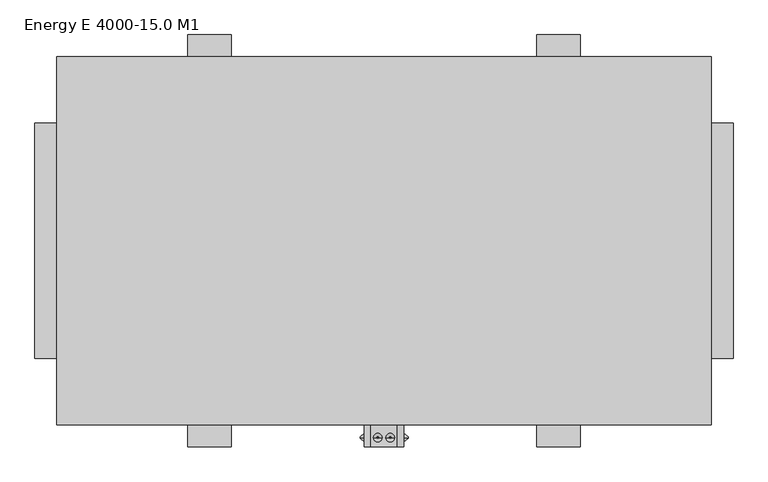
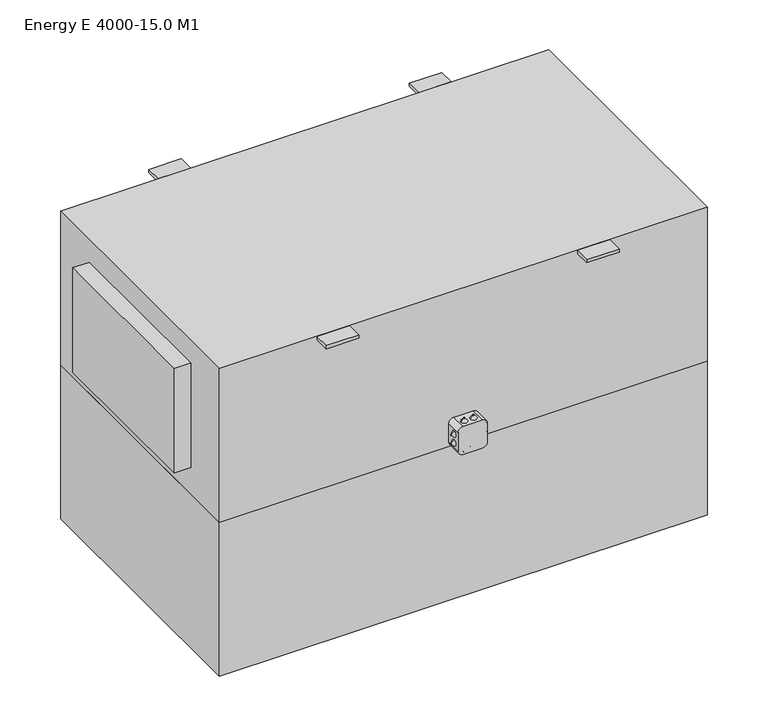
"""IFC4 building model written with IfcOpenShell, lengths in millimetres: proxy geometry, ADSK_КПВУ_ENERGY E_прямоугольная : Energy E 4000-15.0 M1."""

from ifc_helpers import new_model, si_unit, point, frame, frame_2d, origin, place, context, project, spatial, polyline, circle_curve, trimmed, segment, composite_curve, outline, extrude, faceted_brep, source, transform, mapped, element, save
from ifc_brep_helpers import plane_surface, revolved_surface, advanced_brep


def energy_e_4000_15_0_m1_56c008f9(model_context):
    return source(origin(), model_context, "Body", "SolidModel", [
        advanced_brep(
        [(211.0, -451.4311792, -221.7092609), (211.0, -451.4311792, -217.7092609), (221.0, -451.4311792, -229.7092609), (221.0, -451.4311792, -209.7092609)],
        [
            (0, 1, circle_curve(frame((211.0, -451.4311792, -219.7092609), z_axis=(-1.0, 0.0, 0.0), x_axis=(0.0, 0.0, -1.0)), 2.0)),
            (1, 0, circle_curve(frame((211.0, -451.4311792, -219.7092609), z_axis=(-1.0, 0.0, 0.0), x_axis=(0.0, 0.0, 1.0)), 2.0)),
            (2, 3, circle_curve(frame((221.0, -451.4311792, -219.7092609), z_axis=(1.0, 0.0, 0.0), x_axis=(0.0, 0.0, 1.0)), 10.0)),
            (3, 2, circle_curve(frame((221.0, -451.4311792, -219.7092609), z_axis=(1.0, 0.0, 0.0), x_axis=(0.0, 0.0, -1.0)), 10.0)),
            (2, 0),
            (1, 3),
        ],
        [
            plane_surface(frame((211.0, -451.4311792, -219.7092609), z_axis=(-1.0, 0.0, 0.0), x_axis=(0.0, -1.0, 0.0))),
            plane_surface(frame((221.0, -451.4311792, -219.7092609), z_axis=(1.0, 0.0, 0.0), x_axis=(0.0, -1.0, 0.0))),
            revolved_surface(polyline([(211.0, -451.4311792, -217.7092609), (221.0, -451.4311792, -209.7092609)]), (208.5, -451.4311792, -219.7092609), (1.0, 0.0, 0.0)),
            revolved_surface(polyline([(211.0, -451.4311792, -221.7092609), (221.0, -451.4311792, -229.7092609)]), (208.5, -451.4311792, -219.7092609), (1.0, 0.0, 0.0)),
        ],
        [
            (0, [[1, 2]]),
            (1, [[3, 4]]),
            (2, [[-3, 5, -2, 6]]),
            (3, [[-4, -6, -1, -5]]),
        ],
    ),
        advanced_brep(
        [(211.0, -451.4311792, -189.0531164), (211.0, -451.4311792, -193.0531164), (221.0, -451.4311792, -181.0531164), (221.0, -451.4311792, -201.0531164)],
        [
            (0, 1, circle_curve(frame((211.0, -451.4311792, -191.0531164), z_axis=(-1.0, 0.0, 0.0), x_axis=(0.0, 0.0, 1.0)), 2.0)),
            (1, 0, circle_curve(frame((211.0, -451.4311792, -191.0531164), z_axis=(-1.0, 0.0, 0.0), x_axis=(0.0, 0.0, -1.0)), 2.0)),
            (2, 3, circle_curve(frame((221.0, -451.4311792, -191.0531164), z_axis=(1.0, 0.0, 0.0), x_axis=(0.0, 0.0, -1.0)), 10.0)),
            (3, 2, circle_curve(frame((221.0, -451.4311792, -191.0531164), z_axis=(1.0, 0.0, 0.0), x_axis=(0.0, 0.0, 1.0)), 10.0)),
            (3, 1),
            (0, 2),
        ],
        [
            plane_surface(frame((211.0, -451.4311792, -191.0531164), z_axis=(-1.0, 0.0, 0.0), x_axis=(0.0, 1.0, 0.0))),
            plane_surface(frame((221.0, -451.4311792, -191.0531164), z_axis=(1.0, 0.0, 0.0), x_axis=(0.0, 1.0, 0.0))),
            revolved_surface(polyline([(211.0, -451.4311792, -189.0531164), (221.0, -451.4311792, -181.0531164)]), (208.5, -451.4311792, -191.0531164), (1.0, 0.0, 0.0)),
            revolved_surface(polyline([(211.0, -451.4311792, -193.0531164), (221.0, -451.4311792, -201.0531164)]), (208.5, -451.4311792, -191.0531164), (1.0, 0.0, 0.0)),
        ],
        [
            (0, [[1, 2]]),
            (1, [[3, 4]]),
            (2, [[-4, 5, -1, 6]]),
            (3, [[-3, -6, -2, -5]]),
        ],
    ),
        advanced_brep(
        [(321.0, -451.4311792, -221.7092609), (321.0, -451.4311792, -217.7092609), (311.0, -451.4311792, -229.7092609), (311.0, -451.4311792, -209.7092609)],
        [
            (0, 1, circle_curve(frame((321.0, -451.4311792, -219.7092609), z_axis=(1.0, 0.0, 0.0), x_axis=(0.0, 0.0, -1.0)), 2.0)),
            (1, 0, circle_curve(frame((321.0, -451.4311792, -219.7092609), z_axis=(1.0, 0.0, 0.0), x_axis=(0.0, 0.0, 1.0)), 2.0)),
            (2, 3, circle_curve(frame((311.0, -451.4311792, -219.7092609), z_axis=(-1.0, 0.0, 0.0), x_axis=(0.0, 0.0, 1.0)), 10.0)),
            (3, 2, circle_curve(frame((311.0, -451.4311792, -219.7092609), z_axis=(-1.0, 0.0, 0.0), x_axis=(0.0, 0.0, -1.0)), 10.0)),
            (3, 1),
            (0, 2),
        ],
        [
            plane_surface(frame((321.0, -451.4311792, -219.7092609), z_axis=(1.0, 0.0, 0.0), x_axis=(0.0, 1.0, 0.0))),
            plane_surface(frame((311.0, -451.4311792, -219.7092609), z_axis=(-1.0, 0.0, 0.0), x_axis=(0.0, 1.0, 0.0))),
            revolved_surface(polyline([(321.0, -451.4311792, -221.7092609), (311.0, -451.4311792, -229.7092609)]), (323.5, -451.4311792, -219.7092609), (-1.0, 0.0, 0.0)),
            revolved_surface(polyline([(321.0, -451.4311792, -217.7092609), (311.0, -451.4311792, -209.7092609)]), (323.5, -451.4311792, -219.7092609), (-1.0, 0.0, 0.0)),
        ],
        [
            (0, [[1, 2]]),
            (1, [[3, 4]]),
            (2, [[-4, 5, -1, 6]]),
            (3, [[-3, -6, -2, -5]]),
        ],
    ),
        advanced_brep(
        [(321.0, -451.4311792, -189.0531164), (321.0, -451.4311792, -193.0531164), (311.0, -451.4311792, -181.0531164), (311.0, -451.4311792, -201.0531164)],
        [
            (0, 1, circle_curve(frame((321.0, -451.4311792, -191.0531164), z_axis=(1.0, 0.0, 0.0), x_axis=(0.0, 0.0, 1.0)), 2.0)),
            (1, 0, circle_curve(frame((321.0, -451.4311792, -191.0531164), z_axis=(1.0, 0.0, 0.0), x_axis=(0.0, 0.0, -1.0)), 2.0)),
            (2, 3, circle_curve(frame((311.0, -451.4311792, -191.0531164), z_axis=(-1.0, 0.0, 0.0), x_axis=(0.0, 0.0, -1.0)), 10.0)),
            (3, 2, circle_curve(frame((311.0, -451.4311792, -191.0531164), z_axis=(-1.0, 0.0, 0.0), x_axis=(0.0, 0.0, 1.0)), 10.0)),
            (2, 0),
            (1, 3),
        ],
        [
            plane_surface(frame((321.0, -451.4311792, -191.0531164), z_axis=(1.0, 0.0, 0.0), x_axis=(0.0, -1.0, 0.0))),
            plane_surface(frame((311.0, -451.4311792, -191.0531164), z_axis=(-1.0, 0.0, 0.0), x_axis=(0.0, -1.0, 0.0))),
            revolved_surface(polyline([(321.0, -451.4311792, -193.0531164), (311.0, -451.4311792, -201.0531164)]), (323.5, -451.4311792, -191.0531164), (-1.0, 0.0, 0.0)),
            revolved_surface(polyline([(321.0, -451.4311792, -189.0531164), (311.0, -451.4311792, -181.0531164)]), (323.5, -451.4311792, -191.0531164), (-1.0, 0.0, 0.0)),
        ],
        [
            (0, [[1, 2]]),
            (1, [[3, 4]]),
            (2, [[-3, 5, -2, 6]]),
            (3, [[-4, -6, -1, -5]]),
        ],
    ),
        advanced_brep(
        [(249.6719278, -451.4311792, -260.0), (253.6719278, -451.4311792, -260.0), (241.6719278, -451.4311792, -250.0), (261.6719278, -451.4311792, -250.0)],
        [
            (0, 1, circle_curve(frame((251.6719278, -451.4311792, -260.0), z_axis=(0.0, 0.0, -1.0), x_axis=(-1.0, 0.0, 0.0)), 2.0)),
            (1, 0, circle_curve(frame((251.6719278, -451.4311792, -260.0), z_axis=(0.0, 0.0, -1.0), x_axis=(1.0, 0.0, 0.0)), 2.0)),
            (2, 3, circle_curve(frame((251.6719278, -451.4311792, -250.0), z_axis=(0.0, 0.0, 1.0), x_axis=(1.0, 0.0, 0.0)), 10.0)),
            (3, 2, circle_curve(frame((251.6719278, -451.4311792, -250.0), z_axis=(0.0, 0.0, 1.0), x_axis=(-1.0, 0.0, 0.0)), 10.0)),
            (3, 1),
            (0, 2),
        ],
        [
            plane_surface(frame((251.6719278, -451.4311792, -260.0), z_axis=(0.0, 0.0, -1.0), x_axis=(0.0, 1.0, 0.0))),
            plane_surface(frame((251.6719278, -451.4311792, -250.0), z_axis=(0.0, 0.0, 1.0), x_axis=(0.0, 1.0, 0.0))),
            revolved_surface(polyline([(249.6719278, -451.4311792, -260.0), (241.6719278, -451.4311792, -250.0)]), (251.6719278, -451.4311792, -262.5), (0.0, 0.0, 1.0)),
            revolved_surface(polyline([(253.6719278, -451.4311792, -260.0), (261.6719278, -451.4311792, -250.0)]), (251.6719278, -451.4311792, -262.5), (0.0, 0.0, 1.0)),
        ],
        [
            (0, [[1, 2]]),
            (1, [[3, 4]]),
            (2, [[-4, 5, -1, 6]]),
            (3, [[-3, -6, -2, -5]]),
        ],
    ),
        advanced_brep(
        [(282.3280722, -451.4311792, -260.0), (278.3280722, -451.4311792, -260.0), (290.3280722, -451.4311792, -250.0), (270.3280722, -451.4311792, -250.0)],
        [
            (0, 1, circle_curve(frame((280.3280722, -451.4311792, -260.0), z_axis=(0.0, 0.0, -1.0), x_axis=(1.0, 0.0, 0.0)), 2.0)),
            (1, 0, circle_curve(frame((280.3280722, -451.4311792, -260.0), z_axis=(0.0, 0.0, -1.0), x_axis=(-1.0, 0.0, 0.0)), 2.0)),
            (2, 3, circle_curve(frame((280.3280722, -451.4311792, -250.0), z_axis=(0.0, 0.0, 1.0), x_axis=(-1.0, 0.0, 0.0)), 10.0)),
            (3, 2, circle_curve(frame((280.3280722, -451.4311792, -250.0), z_axis=(0.0, 0.0, 1.0), x_axis=(1.0, 0.0, 0.0)), 10.0)),
            (2, 0),
            (1, 3),
        ],
        [
            plane_surface(frame((280.3280722, -451.4311792, -260.0), z_axis=(0.0, 0.0, -1.0), x_axis=(0.0, -1.0, 0.0))),
            plane_surface(frame((280.3280722, -451.4311792, -250.0), z_axis=(0.0, 0.0, 1.0), x_axis=(0.0, -1.0, 0.0))),
            revolved_surface(polyline([(278.3280722, -451.4311792, -260.0), (270.3280722, -451.4311792, -250.0)]), (280.3280722, -451.4311792, -262.5), (0.0, 0.0, 1.0)),
            revolved_surface(polyline([(282.3280722, -451.4311792, -260.0), (290.3280722, -451.4311792, -250.0)]), (280.3280722, -451.4311792, -262.5), (0.0, 0.0, 1.0)),
        ],
        [
            (0, [[1, 2]]),
            (1, [[3, 4]]),
            (2, [[-3, 5, -2, 6]]),
            (3, [[-4, -6, -1, -5]]),
        ],
    ),
        advanced_brep(
        [(249.6719278, -451.4311792, -150.0), (253.6719278, -451.4311792, -150.0), (241.6719278, -451.4311792, -160.0), (261.6719278, -451.4311792, -160.0)],
        [
            (0, 1, circle_curve(frame((251.6719278, -451.4311792, -150.0), z_axis=(0.0, 0.0, 1.0), x_axis=(-1.0, 0.0, 0.0)), 2.0)),
            (1, 0, circle_curve(frame((251.6719278, -451.4311792, -150.0), z_axis=(0.0, 0.0, 1.0), x_axis=(1.0, 0.0, 0.0)), 2.0)),
            (2, 3, circle_curve(frame((251.6719278, -451.4311792, -160.0), z_axis=(0.0, 0.0, -1.0), x_axis=(1.0, 0.0, 0.0)), 10.0)),
            (3, 2, circle_curve(frame((251.6719278, -451.4311792, -160.0), z_axis=(0.0, 0.0, -1.0), x_axis=(-1.0, 0.0, 0.0)), 10.0)),
            (2, 0),
            (1, 3),
        ],
        [
            plane_surface(frame((251.6719278, -451.4311792, -150.0), z_axis=(0.0, 0.0, 1.0), x_axis=(0.0, -1.0, 0.0))),
            plane_surface(frame((251.6719278, -451.4311792, -160.0), z_axis=(0.0, 0.0, -1.0), x_axis=(0.0, -1.0, 0.0))),
            revolved_surface(polyline([(253.6719278, -451.4311792, -150.0), (261.6719278, -451.4311792, -160.0)]), (251.6719278, -451.4311792, -147.5), (0.0, 0.0, -1.0)),
            revolved_surface(polyline([(249.6719278, -451.4311792, -150.0), (241.6719278, -451.4311792, -160.0)]), (251.6719278, -451.4311792, -147.5), (0.0, 0.0, -1.0)),
        ],
        [
            (0, [[1, 2]]),
            (1, [[3, 4]]),
            (2, [[-3, 5, -2, 6]]),
            (3, [[-4, -6, -1, -5]]),
        ],
    ),
        advanced_brep(
        [(282.3280722, -451.4311792, -150.0), (278.3280722, -451.4311792, -150.0), (290.3280722, -451.4311792, -160.0), (270.3280722, -451.4311792, -160.0)],
        [
            (0, 1, circle_curve(frame((280.3280722, -451.4311792, -150.0), z_axis=(0.0, 0.0, 1.0), x_axis=(1.0, 0.0, 0.0)), 2.0)),
            (1, 0, circle_curve(frame((280.3280722, -451.4311792, -150.0), z_axis=(0.0, 0.0, 1.0), x_axis=(-1.0, 0.0, 0.0)), 2.0)),
            (2, 3, circle_curve(frame((280.3280722, -451.4311792, -160.0), z_axis=(0.0, 0.0, -1.0), x_axis=(-1.0, 0.0, 0.0)), 10.0)),
            (3, 2, circle_curve(frame((280.3280722, -451.4311792, -160.0), z_axis=(0.0, 0.0, -1.0), x_axis=(1.0, 0.0, 0.0)), 10.0)),
            (3, 1),
            (0, 2),
        ],
        [
            plane_surface(frame((280.3280722, -451.4311792, -150.0), z_axis=(0.0, 0.0, 1.0), x_axis=(0.0, 1.0, 0.0))),
            plane_surface(frame((280.3280722, -451.4311792, -160.0), z_axis=(0.0, 0.0, -1.0), x_axis=(0.0, 1.0, 0.0))),
            revolved_surface(polyline([(282.3280722, -451.4311792, -150.0), (290.3280722, -451.4311792, -160.0)]), (280.3280722, -451.4311792, -147.5), (0.0, 0.0, -1.0)),
            revolved_surface(polyline([(278.3280722, -451.4311792, -150.0), (270.3280722, -451.4311792, -160.0)]), (280.3280722, -451.4311792, -147.5), (0.0, 0.0, -1.0)),
        ],
        [
            (0, [[1, 2]]),
            (1, [[3, 4]]),
            (2, [[-4, 5, -1, 6]]),
            (3, [[-3, -6, -2, -5]]),
        ],
    ),
        extrude(outline(composite_curve([segment(polyline([(-250.0, 236.0), (-250.0, 296.0)]), True, "CONTINUOUS"), segment(trimmed(circle_curve(frame_2d((-235.0, 296.0)), 15.0), [point((-250.0, 296.0))], [point((-235.0, 311.0))], False, "CARTESIAN"), True, "CONTINUOUS"), segment(polyline([(-235.0, 311.0), (-175.0, 311.0)]), True, "CONTINUOUS"), segment(trimmed(circle_curve(frame_2d((-175.0, 296.0)), 15.0), [point((-175.0, 311.0))], [point((-160.0, 296.0))], False, "CARTESIAN"), True, "CONTINUOUS"), segment(polyline([(-160.0, 296.0), (-160.0, 236.0)]), True, "CONTINUOUS"), segment(trimmed(circle_curve(frame_2d((-175.0, 236.0)), 15.0), [point((-160.0, 236.0))], [point((-175.0, 221.0))], False, "CARTESIAN"), True, "CONTINUOUS"), segment(polyline([(-175.0, 221.0), (-235.0, 221.0)]), True, "CONTINUOUS"), segment(trimmed(circle_curve(frame_2d((-235.0, 236.0)), 15.0), [point((-235.0, 221.0))], [point((-250.0, 236.0))], False, "CARTESIAN"), True, "CONTINUOUS")], self_intersect=False)), frame((0.0, -472.5, 0.0), z_axis=(0.0, 1.0, 0.0), x_axis=(0.0, 0.0, 1.0)), (0.0, 0.0, 1.0), 50.0),
        extrude(outline(polyline([(1016.0, -270.0), (1016.0, 270.0), (1066.0, 270.0), (1066.0, -270.0), (1016.0, -270.0)])), frame((0.0, 0.0, -164.0), z_axis=(0.0, 0.0, 1.0), x_axis=(1.0, 0.0, 0.0)), (0.0, 0.0, 1.0), 340.0),
        faceted_brep([(1016.0, -422.5, 250.0), (1016.0, -422.5, -250.0), (1016.0, 422.5, -250.0), (1016.0, 422.5, 250.0), (-484.0, -422.5, 250.0), (-484.0, 422.5, 250.0), (-484.0, 422.5, -250.0), (-484.0, -422.5, -250.0), (-484.0, -270.0, 176.0), (-484.0, -270.0, -164.0), (-484.0, 270.0, -164.0), (-484.0, 270.0, 176.0), (-534.0, -270.0, 176.0), (-534.0, 270.0, 176.0), (-534.0, 270.0, -164.0), (-534.0, -270.0, -164.0)], [[[0, 1, 2, 3]], [[4, 5, 6, 7], [8, 9, 10, 11]], [[12, 13, 14, 15]], [[1, 0, 4, 7]], [[2, 1, 7, 6]], [[3, 2, 6, 5]], [[0, 3, 5, 4]], [[12, 15, 9, 8]], [[15, 14, 10, 9]], [[14, 13, 11, 10]], [[13, 12, 8, 11]]]),
        extrude(outline(polyline([(-184.0, 472.5), (-84.0, 472.5), (-84.0, 422.5), (-184.0, 422.5), (-184.0, 472.5)])), frame((0.0, 0.0, 240.0), z_axis=(0.0, 0.0, 1.0), x_axis=(1.0, 0.0, 0.0)), (0.0, 0.0, 1.0), 10.0),
        extrude(outline(polyline([(616.0, 472.5), (716.0, 472.5), (716.0, 422.5), (616.0, 422.5), (616.0, 472.5)])), frame((0.0, 0.0, 240.0), z_axis=(0.0, 0.0, 1.0), x_axis=(1.0, 0.0, 0.0)), (0.0, 0.0, 1.0), 10.0),
        extrude(outline(polyline([(-184.0, -472.5), (-184.0, -422.5), (-84.0, -422.5), (-84.0, -472.5), (-184.0, -472.5)])), frame((0.0, 0.0, 240.0), z_axis=(0.0, 0.0, 1.0), x_axis=(1.0, 0.0, 0.0)), (0.0, 0.0, 1.0), 10.0),
        extrude(outline(polyline([(616.0, -472.5), (616.0, -422.5), (716.0, -422.5), (716.0, -472.5), (616.0, -472.5)])), frame((0.0, 0.0, 240.0), z_axis=(0.0, 0.0, 1.0), x_axis=(1.0, 0.0, 0.0)), (0.0, 0.0, 1.0), 10.0),
        extrude(outline(polyline([(1016.0, 422.5), (1016.0, -422.5), (-484.0, -422.5), (-484.0, 422.5), (1016.0, 422.5)])), frame((0.0, 0.0, -750.0), z_axis=(0.0, 0.0, 1.0), x_axis=(1.0, 0.0, 0.0)), (0.0, 0.0, 1.0), 500.0),
    ])


if __name__ == "__main__":
    model = new_model("IFC4")
    model_context = context("Model", 3, world=origin())
    ifc_project = project(units=[si_unit("LENGTHUNIT", "METRE", prefix="MILLI")], contexts=[model_context])
    site = spatial("IfcSite", under=ifc_project)
    building = spatial("IfcBuilding", under=site)
    placement = place(None, origin())
    energy_e_4000_15_0_m1_shape = energy_e_4000_15_0_m1_56c008f9(model_context)
    element("IfcBuildingElementProxy", 1, Name="ADSK_КПВУ_ENERGY E_прямоугольная : Energy E 4000-15.0 M1", ObjectType="ADSK_КПВУ_ENERGY E_прямоугольная : Energy E 4000-15.0 M1", at=placement, inside=building, context=model_context, shape_type="MappedRepresentation", body=[
        mapped(energy_e_4000_15_0_m1_shape, transform((0.0, 0.0, 0.0), x_axis=(1.0, 0.0, 0.0), y_axis=(0.0, 1.0, 0.0), z_axis=(0.0, 0.0, 1.0))),
    ])
    save(model, "model.ifc")
